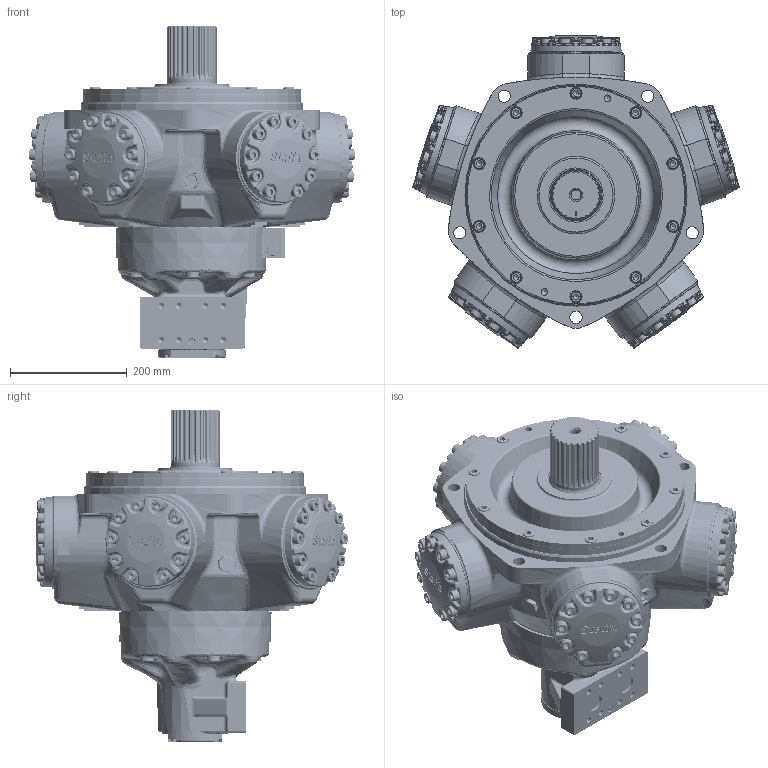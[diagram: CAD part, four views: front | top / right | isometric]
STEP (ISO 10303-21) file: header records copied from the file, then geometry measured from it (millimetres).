
FILE_DESCRIPTION(/* description */ (''),/* implementation_level */ '2;1');
FILE_NAME(/* name */ 'HMC 125_Z3_SFM3_C_70.stp',/* time_stamp */ '2025-04-28T09:21:11+01:00',/* author */ ('ccallanga'),/* organization */ (''),/* preprocessor_version */ 'ST-DEVELOPER v20',/* originating_system */ 'Autodesk Inventor 2024',/* authorisation */ '');
FILE_SCHEMA (('AUTOMOTIVE_DESIGN { 1 0 10303 214 3 1 1 }'));
Products named in the file (1): 017750 HMC125 WEBSITE ASSEMBLY_Simplify_1
Bounding box: 560.12 x 535.2 x 569.37 mm (x, y, z)
Volume: 41254528 mm3; surface area: 1113812.8 mm2
Topology: 1 solids, 1 shells, 5010 faces, 12256 edges, 7280 vertices
Faces by surface type: bspline 1872, plane 1319, cylinder 1066, torus 425, cone 203, sphere 125
Full cylindrical faces by diameter (mm): 2.2 x4, 4 x1, 4.134 x4, 5.5 x4, 6.5 x1, 7 x1, 9.4 x2, 10.25 x8, 11.328 x4, 11.913 x4, 12 x2, 12.7 x4, 16.51 x1, 17.323 x1, 19 x1, 19.05 x60, 20.637 x60, 21 x5, 23.825 x5, 25 x1, 25.4 x5, 26.92 x2, 32 x2, 38.1 x3, 68.58 x1, 84.4 x1, 88.837 x1, 92.964 x1, 127 x1, 158.75 x5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
Entity records: 227355 total; most frequent: CARTESIAN_POINT 119122, ORIENTED_EDGE 24012, DIRECTION 17286, EDGE_CURVE 12006, VERTEX_POINT 7280, AXIS2_PLACEMENT_3D 6787, EDGE_LOOP 5302, STYLED_ITEM 5011
